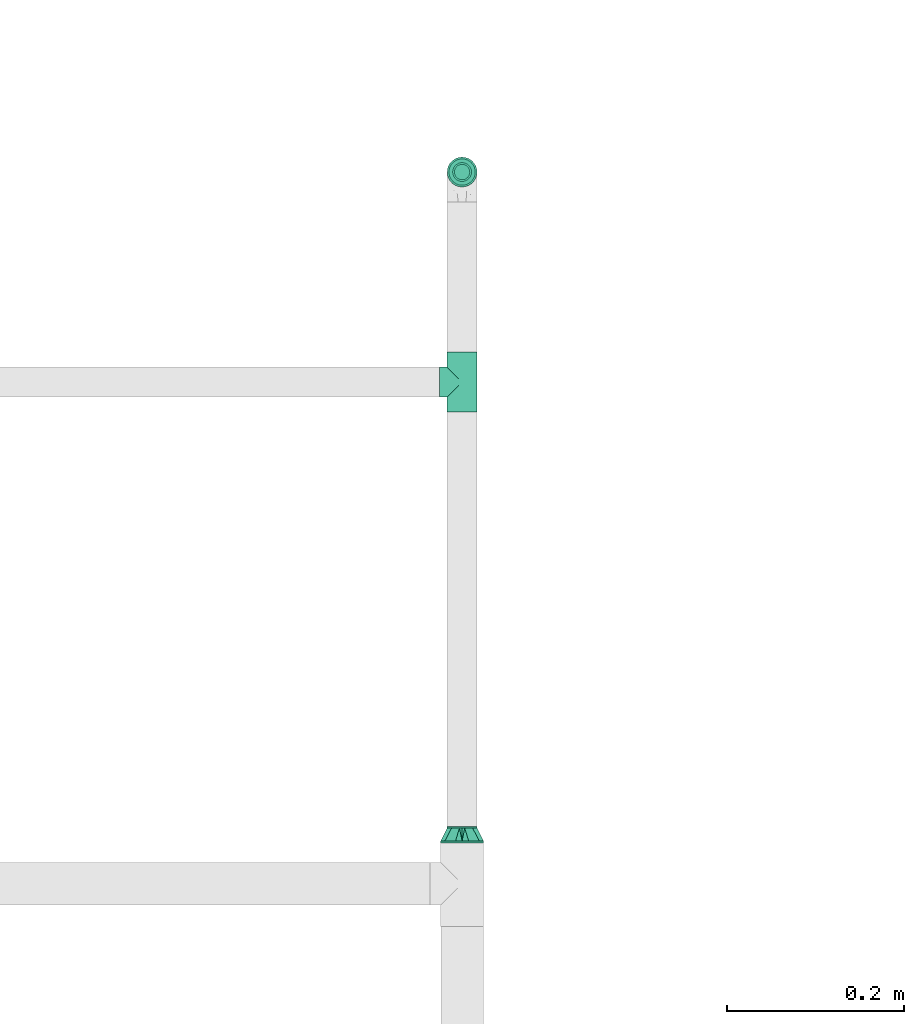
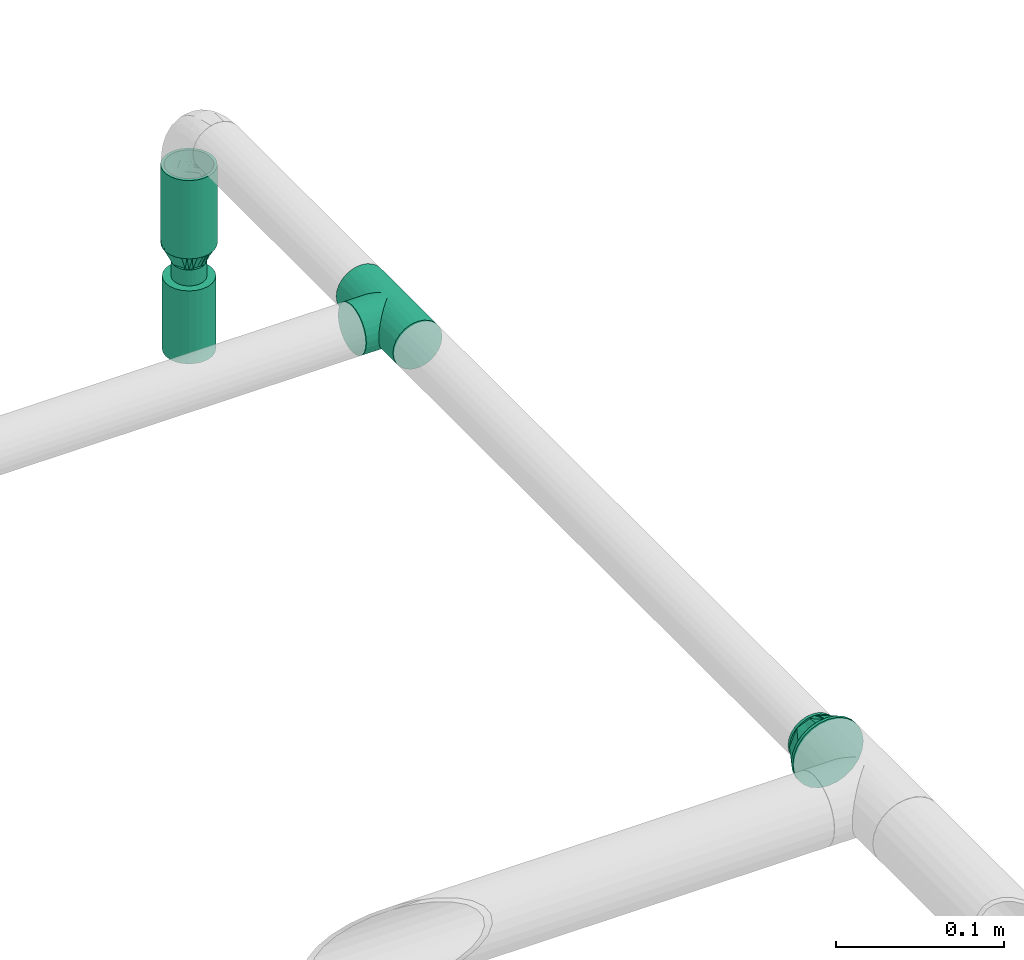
# One storey, part 36 of 43: 3 flow fittings, 2 flow segments, 1 flow terminal.
"""IFC2X3 building model written with IfcOpenShell, lengths in millimetres."""

from ifc_helpers import new_model, entity, si_unit, converted_unit, derived_unit, direction, frame, origin_with_axes, origin_2d_with_axis, place, context, subcontext, project, spatial, hollow_circle, extrude, open_shell, surface_model, source, transform, mapped, type_object, element, save


model = new_model("IFC2X3")

# Units and contexts
model_context = context("Model", 3, precision=0.01, world=frame((0.0, 4.29681676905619e-09, 0.0)), true_north=direction((4.01073788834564e-13, 1.0)))
plan_context = context("Plan", 3, precision=0.01, world=frame((0.0, 4.29681676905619e-09, 0.0)), true_north=direction((4.01073788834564e-13, 1.0)))
body_context = subcontext(model_context, "Body", "Model", "MODEL_VIEW")
ifc_project = project(units=[converted_unit("PLANEANGLEUNIT", "DEGREE", entity("IfcPositiveLengthMeasure", 0.0174532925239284), si_unit("PLANEANGLEUNIT", "RADIAN"), dimensions=[0, 0, 0, 0, 0, 0, 0]), si_unit("AREAUNIT", "SQUARE_METRE"), si_unit("LENGTHUNIT", "METRE", prefix="MILLI"), si_unit("MASSUNIT", "GRAM", prefix="KILO"), si_unit("POWERUNIT", "WATT"), si_unit("PRESSUREUNIT", "PASCAL"), si_unit("FORCEUNIT", "NEWTON", prefix="KILO"), si_unit("ELECTRICVOLTAGEUNIT", "VOLT"), si_unit("ELECTRICCURRENTUNIT", "AMPERE"), si_unit("THERMODYNAMICTEMPERATUREUNIT", "DEGREE_CELSIUS"), si_unit("TIMEUNIT", "SECOND"), si_unit("VOLUMEUNIT", "CUBIC_METRE"), derived_unit("LINEARVELOCITYUNIT", [(si_unit("LENGTHUNIT", "METRE"), 1), (si_unit("TIMEUNIT", "SECOND"), -1)]), derived_unit("VOLUMETRICFLOWRATEUNIT", [(si_unit("VOLUMEUNIT", "CUBIC_METRE"), 1), (si_unit("TIMEUNIT", "SECOND"), -1)]), derived_unit("THERMALTRANSMITTANCEUNIT", [(si_unit("POWERUNIT", "WATT"), 1), (si_unit("THERMODYNAMICTEMPERATUREUNIT", "KELVIN"), -1), (si_unit("AREAUNIT", "SQUARE_METRE"), -1)]), derived_unit("SOUNDPRESSUREUNIT", [(si_unit("PRESSUREUNIT", "PASCAL"), 1)])], contexts=[model_context, plan_context])

# Site, building, storey
site_placement = place(None, frame((0.0, -4.29681676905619e-09, 0.0), z_axis=(0.0, 0.0, 1.0), x_axis=(1.0, 0.0, 0.0)))
site = spatial("IfcSite", under=ifc_project, at=site_placement, CompositionType="ELEMENT")
building_placement = place(site_placement, frame((0.0, 4.29681676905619e-09, 0.0), z_axis=(0.0, 0.0, 1.0), x_axis=(1.0, 0.0, 0.0)))
building = spatial("IfcBuilding", under=site, at=building_placement, Name="mc-building", CompositionType="ELEMENT")
storey_placement = place(building_placement, frame((0.0, 0.0, 210900.0), z_axis=(0.0, 0.0, 1.0), x_axis=(1.0, 0.0, 0.0)))
storey = spatial("IfcBuildingStorey", under=building, at=storey_placement, Name="Nivå F", CompositionType="ELEMENT", Elevation=210900.0)

# Flow fittings
pipe_fitting_type_1 = type_object("IfcPipeFittingType", Name="magi_pipe_fe_tee_centric_90_NOR", PredefinedType="JUNCTION")
shared_shape_1 = source(origin_with_axes(), body_context, "Body", "SurfaceModel", [
    surface_model("IfcShellBasedSurfaceModel", [(-33.8, 8.45, -14.63583), (-33.8, 4.37404, -16.32415), (-33.8, 11.9501, -11.9501), (-33.8, -11.9501, -11.9501), (-33.8, -14.63583, -8.45), (-33.8, -8.45, -14.63583), (-33.8, 0.0, -16.9), (-33.8, -4.37404, -16.32415), (-33.8, -4.37404, 16.32415), (-33.8, 0.0, 16.9), (-33.8, -8.45, 14.63583), (-33.8, 16.32415, -4.37404), (-33.8, 14.63583, -8.45), (-33.8, -16.9, 0.0), (-33.8, -16.32415, -4.37404), (-33.8, 14.63583, 8.45), (-33.8, 16.32415, 4.37404), (-33.8, 8.45, 14.63583), (-33.8, 11.9501, 11.9501), (-33.8, 4.37404, 16.32415), (-33.8, -11.9501, 11.9501), (-33.8, -14.63583, 8.45), (-33.8, -16.32415, 4.37404), (-33.8, 16.9, 0.0), (33.8, 4.37404, -16.32415), (33.8, -16.9, 0.0), (33.8, 0.0, -16.9), (33.8, 14.63583, -8.45), (33.8, 8.45, -14.63583), (33.8, 16.32415, -4.37404), (33.8, 11.9501, -11.9501), (33.8, -16.32415, 4.37404), (33.8, -8.45, -14.63583), (33.8, -4.37404, -16.32415), (33.8, -11.9501, -11.9501), (33.8, -14.63583, -8.45), (33.8, -16.32415, -4.37404), (33.8, 16.32415, 4.37404), (33.8, 8.45, 14.63583), (33.8, 14.63583, 8.45), (33.8, 11.9501, 11.9501), (33.8, -8.45, 14.63583), (33.8, 4.37404, 16.32415), (33.8, -14.63583, 8.45), (33.8, -11.9501, 11.9501), (33.8, 0.0, 16.9), (33.8, -4.37404, 16.32415), (33.8, 16.9, 0.0), (16.28698, -16.28698, 4.51047), (16.9, -16.9, 0.0), (14.62704, -14.62704, 8.4652), (9.47213, -9.47213, 13.99602), (12.26343, -12.26343, 11.62834), (-16.9, -16.9, 0.0), (-16.28698, -16.28698, 4.51047), (-14.62704, -14.62704, 8.4652), (-12.26343, -12.26343, 11.62834), (-9.47213, -9.47213, 13.99602), (-6.42894, -6.42894, 15.62942), (6.42894, -6.42894, 15.62942), (3.24522, -3.24522, 16.58549), (0.0, 0.0, 16.9), (-3.24522, -3.24522, 16.58549), (3.24522, -3.24522, -16.58549), (0.0, 0.0, -16.9), (-3.24522, -3.24522, -16.58549), (-6.42894, -6.42894, -15.62942), (6.42894, -6.42894, -15.62942), (9.47213, -9.47213, -13.99602), (12.26343, -12.26343, -11.62834), (14.62704, -14.62704, -8.4652), (16.28698, -16.28698, -4.51047), (-9.47213, -9.47213, -13.99602), (-12.26343, -12.26343, -11.62834), (-16.28698, -16.28698, -4.51047), (-14.62704, -14.62704, -8.4652), (4.37404, -25.35, -16.32415), (-16.9, -25.35, 0.0), (0.0, -25.35, -16.9), (14.63583, -25.35, -8.45), (8.45, -25.35, -14.63583), (16.32415, -25.35, -4.37404), (11.9501, -25.35, -11.9501), (-11.9501, -25.35, -11.9501), (-8.45, -25.35, -14.63583), (-4.37404, -25.35, -16.32415), (-14.63583, -25.35, -8.45), (-16.32415, -25.35, -4.37404), (16.9, -25.35, 0.0), (8.45, -25.35, 14.63583), (16.32415, -25.35, 4.37404), (14.63583, -25.35, 8.45), (-8.45, -25.35, 14.63583), (11.9501, -25.35, 11.9501), (4.37404, -25.35, 16.32415), (-16.32415, -25.35, 4.37404), (-11.9501, -25.35, 11.9501), (-14.63583, -25.35, 8.45), (0.0, -25.35, 16.9), (-4.37404, -25.35, 16.32415)], [open_shell([[[0, 1, 2]], [[3, 4, 5]], [[6, 7, 5]], [[8, 9, 10]], [[1, 6, 11]], [[1, 11, 12]], [[2, 1, 12]], [[13, 11, 6]], [[14, 13, 4]], [[6, 5, 4]], [[6, 4, 13]], [[13, 15, 11]], [[15, 16, 11]], [[10, 15, 13]], [[15, 10, 17]], [[18, 15, 17]], [[19, 17, 9]], [[20, 10, 21]], [[22, 21, 10]], [[10, 13, 22]], [[10, 9, 17]], [[23, 11, 16]], [[24, 25, 26]], [[27, 24, 28]], [[27, 29, 24]], [[27, 28, 30]], [[31, 25, 24]], [[26, 32, 33]], [[26, 34, 32]], [[35, 25, 36]], [[35, 34, 26]], [[25, 35, 26]], [[24, 29, 31]], [[29, 37, 38]], [[38, 37, 39]], [[38, 31, 29]], [[38, 39, 40]], [[41, 38, 42]], [[43, 41, 44]], [[41, 43, 31]], [[41, 45, 46]], [[41, 31, 38]], [[42, 45, 41]], [[29, 47, 37]], [[31, 43, 48]], [[25, 31, 49]], [[49, 31, 48]], [[43, 50, 48]], [[44, 41, 51]], [[50, 43, 52]], [[51, 52, 44]], [[52, 43, 44]], [[53, 54, 22]], [[53, 22, 13]], [[22, 54, 21]], [[54, 55, 21]], [[56, 57, 20]], [[20, 21, 56]], [[20, 57, 10]], [[56, 21, 55]], [[10, 57, 58]], [[51, 41, 59]], [[60, 45, 61]], [[59, 46, 60]], [[46, 59, 41]], [[60, 46, 45]], [[61, 45, 42]], [[39, 37, 16]], [[18, 38, 40]], [[15, 40, 39]], [[42, 38, 17]], [[23, 37, 47]], [[62, 61, 9]], [[62, 8, 58]], [[8, 62, 9]], [[58, 8, 10]], [[61, 19, 9]], [[42, 19, 61]], [[17, 19, 42]], [[17, 38, 18]], [[15, 18, 40]], [[16, 15, 39]], [[37, 23, 16]], [[12, 27, 30]], [[23, 47, 29]], [[30, 28, 0]], [[27, 11, 29]], [[26, 33, 63]], [[26, 64, 24]], [[64, 26, 63]], [[28, 24, 1]], [[64, 1, 24]], [[2, 30, 0]], [[11, 27, 12]], [[12, 30, 2]], [[11, 23, 29]], [[65, 66, 7]], [[6, 1, 64]], [[6, 65, 7]], [[66, 5, 7]], [[1, 0, 28]], [[6, 64, 65]], [[63, 33, 67]], [[32, 34, 68]], [[69, 68, 34]], [[35, 70, 69]], [[69, 34, 35]], [[32, 68, 67]], [[36, 25, 49]], [[36, 71, 35]], [[71, 36, 49]], [[35, 71, 70]], [[72, 5, 66]], [[72, 3, 5]], [[3, 72, 73]], [[3, 73, 4]], [[74, 53, 14]], [[75, 74, 4]], [[74, 14, 4]], [[14, 53, 13]], [[75, 4, 73]], [[32, 67, 33]], [[76, 77, 78]], [[79, 76, 80]], [[79, 81, 76]], [[79, 80, 82]], [[77, 76, 81]], [[78, 83, 84]], [[84, 85, 78]], [[86, 77, 87]], [[83, 78, 86]], [[77, 86, 78]], [[81, 88, 77]], [[89, 88, 90]], [[89, 90, 91]], [[92, 77, 89]], [[89, 91, 93]], [[92, 89, 94]], [[95, 96, 97]], [[96, 95, 92]], [[92, 98, 99]], [[95, 77, 92]], [[94, 98, 92]], [[89, 77, 88]], [[77, 95, 53]], [[54, 53, 95]], [[97, 96, 56]], [[96, 92, 57]], [[95, 97, 54]], [[58, 92, 99]], [[55, 54, 97]], [[56, 55, 97]], [[58, 57, 92]], [[98, 61, 62]], [[58, 99, 62]], [[56, 96, 57]], [[62, 99, 98]], [[94, 60, 98]], [[89, 59, 94]], [[91, 90, 48]], [[52, 93, 91]], [[93, 51, 89]], [[49, 90, 88]], [[59, 60, 94]], [[51, 59, 89]], [[49, 48, 90]], [[50, 52, 91]], [[48, 50, 91]], [[51, 93, 52]], [[98, 60, 61]], [[88, 81, 49]], [[71, 49, 81]], [[79, 82, 69]], [[82, 80, 68]], [[81, 79, 71]], [[67, 80, 76]], [[70, 71, 79]], [[69, 70, 79]], [[67, 68, 80]], [[78, 64, 63]], [[67, 76, 63]], [[69, 82, 68]], [[63, 76, 78]], [[85, 65, 78]], [[84, 66, 85]], [[86, 87, 74]], [[86, 73, 83]], [[72, 84, 83]], [[53, 87, 77]], [[66, 65, 85]], [[72, 66, 84]], [[53, 74, 87]], [[75, 73, 86]], [[74, 75, 86]], [[72, 83, 73]], [[78, 65, 64]]])]),
])
flow_fitting_1_placement = place(storey_placement, frame((606986.48955, 698193.36932, 2660.0), z_axis=(0.0, 0.0, -1.0), x_axis=(0.0, 1.0, 0.0)))
element("IfcFlowFitting", 1, at=flow_fitting_1_placement, inside=storey, type_object=pipe_fitting_type_1, Name="magi_pipe_fe_tee_centric_90_NOR", context=body_context, shape_type="MappedRepresentation", body=[
    mapped(shared_shape_1, transform((0.0, 0.0, 0.0), scale=1.0)),
])
pipe_fitting_type_2 = type_object("IfcPipeFittingType", Name="magi_pipe_fe_reducer_centric_short_NOR", PredefinedType="TRANSITION")
shared_shape_2 = source(origin_with_axes(), body_context, "Body", "SurfaceModel", [
    surface_model("IfcShellBasedSurfaceModel", [(-2.0, 0.0, 24.2), (-2.0, 6.26342, 23.37541), (-2.0, 12.1, 20.95781), (-2.0, 17.11198, 17.11198), (-2.0, 24.2, 0.0), (-2.0, 20.95781, 12.1), (-2.0, -23.37541, 6.26342), (-2.0, -17.11198, -17.11198), (-2.0, -6.26342, 23.37541), (-2.0, -17.11198, 17.11198), (-2.0, -12.1, 20.95781), (-2.0, -20.95781, 12.1), (-2.0, -24.2, 0.0), (-2.0, 23.37541, 6.26342), (-2.0, 23.37541, -6.26342), (-2.0, 6.26342, -23.37541), (-2.0, 17.11198, -17.11198), (-2.0, 20.95781, -12.1), (-2.0, 12.1, -20.95781), (-2.0, -23.37541, -6.26342), (-2.0, -20.95781, -12.1), (-2.0, -6.26342, -23.37541), (-2.0, -12.1, -20.95781), (-2.0, 0.0, -24.2), (0.0, 24.2, 0.0), (0.0, 6.26342, -23.37541), (0.0, 12.1, -20.95781), (0.0, 23.37541, -6.26342), (0.0, 17.11198, -17.11198), (0.0, 20.95781, -12.1), (0.0, -24.2, 0.0), (0.0, -12.1, -20.95781), (0.0, -6.26342, -23.37541), (0.0, 0.0, -24.2), (0.0, -17.11198, -17.11198), (0.0, -23.37541, -6.26342), (0.0, -20.95781, -12.1), (0.0, 20.95781, 12.1), (0.0, 17.11198, 17.11198), (0.0, 12.1, 20.95781), (0.0, 6.26342, 23.37541), (0.0, 0.0, 24.2), (0.0, -23.37541, 6.26342), (0.0, -17.11198, 17.11198), (0.0, -20.95781, 12.1), (0.0, -6.26342, 23.37541), (0.0, -12.1, 20.95781), (0.0, 23.37541, 6.26342), (0.0, 7.47821, 23.01557), (0.0, 19.57821, 14.2244), (0.0, -7.47821, 23.01557), (0.0, 7.47821, -23.01557), (0.0, 19.57821, -14.2244), (0.0, -7.47821, -23.01557), (0.0, -19.57821, -14.2244), (0.0, -19.57821, 14.2244), (16.6, 4.37404, -16.32415), (16.6, 8.45, -14.63583), (16.6, 11.9501, -11.9501), (16.6, 0.0, -16.9), (16.6, 16.32415, -4.37404), (16.6, 16.32415, 4.37404), (16.6, 14.63583, -8.45), (16.6, -8.45, 14.63583), (16.6, -8.45, -14.63583), (16.6, -4.37404, -16.32415), (16.6, -11.9501, -11.9501), (16.6, -16.32415, -4.37404), (16.6, -14.63583, -8.45), (16.6, -16.32415, 4.37404), (16.6, 16.9, 0.0), (16.6, 14.63583, 8.45), (16.6, 11.9501, 11.9501), (16.6, 4.37404, 16.32415), (16.6, 8.45, 14.63583), (16.6, 0.0, 16.9), (16.6, -14.63583, 8.45), (16.6, -16.9, 0.0), (16.6, -11.9501, 11.9501), (16.6, -4.37404, 16.32415), (14.6, 11.9501, 11.9501), (14.6, 0.0, 16.9), (14.6, 4.37404, 16.32415), (14.6, 8.45, 14.63583), (14.6, 14.63583, 8.45), (14.6, 16.32415, 4.37404), (14.6, -16.32415, 4.37404), (14.6, -8.45, -14.63583), (14.6, -8.45, 14.63583), (14.6, -14.63583, 8.45), (14.6, -11.9501, 11.9501), (14.6, -4.37404, 16.32415), (14.6, -16.32415, -4.37404), (14.6, -16.9, 0.0), (14.6, 16.32415, -4.37404), (14.6, 11.9501, -11.9501), (14.6, 14.63583, -8.45), (14.6, 8.45, -14.63583), (14.6, 4.37404, -16.32415), (14.6, 0.0, -16.9), (14.6, -11.9501, -11.9501), (14.6, -14.63583, -8.45), (14.6, -4.37404, -16.32415), (14.6, 16.9, 0.0), (14.6, -13.18758, -8.96258), (14.6, 14.42505, -5.97505), (0.0, 21.8891, -7.1122), (0.0, 13.52821, -18.61999), (0.0, 16.55321, -16.42219), (14.6, -14.42505, -5.97505), (0.0, -21.8891, -7.1122), (0.0, -20.73366, -10.6683), (14.6, 5.97505, -14.42505), (0.0, 0.0, -23.01557), (14.6, -2.98753, -15.66253), (14.6, 2.98753, -15.66253), (14.6, 8.96258, -13.18758), (14.6, 15.66253, -2.98753), (14.6, -15.66253, -2.98753), (0.0, -13.52821, -18.61999), (14.6, -5.97505, -14.42505), (14.6, -8.96258, -13.18758), (14.6, 13.18758, -8.96258), (14.6, 13.18758, 8.96258), (14.6, -14.42505, 5.97505), (0.0, -21.8891, 7.1122), (0.0, -13.52821, 18.61999), (0.0, -16.55321, 16.42219), (14.6, 14.42505, 5.97505), (0.0, 21.8891, 7.1122), (0.0, 20.73366, 10.6683), (14.6, -5.97505, 14.42505), (0.0, 0.0, 23.01557), (14.6, 2.98753, 15.66253), (14.6, -2.98753, 15.66253), (14.6, -8.96258, 13.18758), (14.6, -15.66253, 2.98753), (14.6, 15.66253, 2.98753), (0.0, 13.52821, 18.61999), (14.6, 5.97505, 14.42505), (14.6, 8.96258, 13.18758), (14.6, -13.18758, 8.96258)], [open_shell([[[0, 1, 2]], [[0, 2, 3]], [[4, 3, 5]], [[6, 0, 7]], [[0, 3, 7]], [[8, 9, 10]], [[8, 0, 9]], [[9, 6, 11]], [[0, 6, 9]], [[6, 7, 12]], [[4, 5, 13]], [[3, 14, 15]], [[16, 14, 17]], [[18, 15, 14]], [[18, 14, 16]], [[15, 7, 3]], [[19, 7, 20]], [[12, 7, 19]], [[15, 21, 22]], [[22, 7, 15]], [[21, 15, 23]], [[14, 3, 4]], [[24, 25, 26]], [[27, 26, 28]], [[27, 24, 26]], [[27, 28, 29]], [[25, 30, 31]], [[25, 32, 33]], [[25, 31, 32]], [[34, 35, 36]], [[34, 31, 30]], [[34, 30, 35]], [[25, 24, 37]], [[37, 38, 25]], [[25, 38, 30]], [[39, 40, 41]], [[39, 41, 38]], [[30, 38, 41]], [[42, 43, 44]], [[45, 42, 30]], [[43, 45, 46]], [[45, 43, 42]], [[30, 41, 45]], [[24, 47, 37]], [[19, 35, 12]], [[20, 36, 19]], [[31, 7, 22]], [[20, 7, 34]], [[32, 22, 21]], [[19, 36, 35]], [[35, 30, 12]], [[32, 31, 22]], [[34, 7, 31]], [[34, 36, 20]], [[33, 32, 21]], [[21, 23, 33]], [[15, 25, 23]], [[18, 26, 15]], [[29, 16, 17]], [[18, 16, 28]], [[27, 17, 14]], [[18, 28, 26]], [[26, 25, 15]], [[24, 27, 14]], [[29, 17, 27]], [[29, 28, 16]], [[4, 24, 14]], [[23, 25, 33]], [[13, 47, 4]], [[5, 37, 13]], [[39, 3, 2]], [[5, 3, 38]], [[40, 2, 1]], [[13, 37, 47]], [[47, 24, 4]], [[40, 39, 2]], [[38, 3, 39]], [[38, 37, 5]], [[41, 40, 1]], [[1, 0, 41]], [[8, 45, 0]], [[10, 46, 8]], [[44, 9, 11]], [[10, 9, 43]], [[42, 11, 6]], [[10, 43, 46]], [[46, 45, 8]], [[30, 42, 6]], [[44, 11, 42]], [[44, 43, 9]], [[12, 30, 6]], [[0, 45, 41]], [[48, 49, 50]], [[49, 51, 30]], [[52, 51, 49]], [[30, 53, 54]], [[30, 51, 53]], [[49, 24, 52]], [[50, 30, 55]], [[30, 50, 49]], [[56, 57, 58]], [[59, 56, 58]], [[58, 60, 61]], [[60, 58, 62]], [[58, 63, 64]], [[59, 64, 65]], [[59, 58, 64]], [[66, 67, 68]], [[67, 66, 64]], [[64, 69, 67]], [[61, 60, 70]], [[61, 71, 72]], [[61, 72, 73]], [[61, 73, 63]], [[73, 72, 74]], [[63, 73, 75]], [[69, 63, 76]], [[77, 67, 69]], [[76, 63, 78]], [[63, 69, 64]], [[75, 79, 63]], [[58, 61, 63]], [[80, 81, 82]], [[80, 82, 83]], [[80, 84, 85]], [[80, 85, 81]], [[86, 81, 87]], [[88, 89, 90]], [[89, 88, 91]], [[81, 89, 91]], [[81, 86, 89]], [[86, 92, 93]], [[87, 81, 85]], [[85, 94, 95]], [[95, 94, 96]], [[95, 97, 98]], [[87, 85, 95]], [[98, 99, 95]], [[92, 100, 101]], [[100, 92, 87]], [[87, 99, 102]], [[92, 86, 87]], [[95, 99, 87]], [[94, 85, 103]], [[92, 67, 93]], [[101, 68, 92]], [[64, 100, 87]], [[101, 100, 66]], [[65, 87, 102]], [[92, 68, 67]], [[67, 77, 93]], [[65, 64, 87]], [[66, 100, 64]], [[66, 68, 101]], [[59, 65, 102]], [[102, 99, 59]], [[98, 56, 99]], [[97, 57, 98]], [[62, 95, 96]], [[97, 95, 58]], [[60, 96, 94]], [[97, 58, 57]], [[57, 56, 98]], [[70, 60, 94]], [[62, 96, 60]], [[62, 58, 95]], [[103, 70, 94]], [[99, 56, 59]], [[85, 61, 103]], [[84, 71, 85]], [[74, 80, 83]], [[84, 80, 72]], [[73, 83, 82]], [[85, 71, 61]], [[61, 70, 103]], [[73, 74, 83]], [[72, 80, 74]], [[72, 71, 84]], [[75, 73, 82]], [[82, 81, 75]], [[91, 79, 81]], [[88, 63, 91]], [[76, 90, 89]], [[88, 90, 78]], [[69, 89, 86]], [[88, 78, 63]], [[63, 79, 91]], [[77, 69, 86]], [[76, 89, 69]], [[76, 78, 90]], [[93, 77, 86]], [[81, 79, 75]], [[81, 90, 103]], [[103, 80, 81]], [[90, 100, 103]], [[99, 103, 100]], [[95, 103, 99]], [[100, 90, 93]], [[54, 100, 104]], [[105, 52, 106]], [[95, 107, 108]], [[109, 110, 111]], [[51, 107, 112]], [[113, 114, 53]], [[113, 115, 99]], [[116, 112, 107]], [[24, 117, 106]], [[51, 115, 113]], [[30, 118, 93]], [[100, 54, 119]], [[119, 120, 121]], [[30, 110, 118]], [[117, 24, 103]], [[52, 105, 122]], [[114, 120, 53]], [[114, 113, 99]], [[51, 112, 115]], [[95, 108, 52]], [[109, 118, 110]], [[54, 104, 111]], [[104, 109, 111]], [[95, 52, 122]], [[120, 119, 53]], [[121, 100, 119]], [[117, 105, 106]], [[107, 95, 116]], [[49, 80, 123]], [[124, 55, 125]], [[90, 126, 127]], [[128, 129, 130]], [[50, 126, 131]], [[132, 133, 48]], [[132, 134, 81]], [[135, 131, 126]], [[30, 136, 125]], [[50, 134, 132]], [[24, 137, 103]], [[80, 49, 138]], [[138, 139, 140]], [[24, 129, 137]], [[136, 30, 93]], [[55, 124, 141]], [[133, 139, 48]], [[133, 132, 81]], [[50, 131, 134]], [[90, 127, 55]], [[128, 137, 129]], [[49, 123, 130]], [[123, 128, 130]], [[90, 55, 141]], [[139, 138, 48]], [[140, 80, 138]], [[136, 124, 125]], [[126, 90, 135]]])]),
])
flow_fitting_2_placement = place(storey_placement, frame((606986.48955, 697673.66176, 2660.0), z_axis=(0.0, 0.0, 1.0), x_axis=(0.0, 1.0, 0.0)))
element("IfcFlowFitting", 2, at=flow_fitting_2_placement, inside=storey, type_object=pipe_fitting_type_2, Name="magi_pipe_fe_reducer_centric_short_NOR", context=body_context, shape_type="MappedRepresentation", body=[
    mapped(shared_shape_2, transform((0.0, 0.0, 0.0), scale=1.0)),
])
shared_shape_3 = source(origin_with_axes(), body_context, "Body", "SurfaceModel", [
    surface_model("IfcShellBasedSurfaceModel", [(14.4, 4.37404, -16.32415), (14.4, 8.45, -14.63583), (14.4, 11.9501, -11.9501), (14.4, -8.45, -14.63583), (14.4, 16.32415, -4.37404), (14.4, 16.32415, 4.37404), (14.4, 14.63583, -8.45), (14.4, 0.0, -16.9), (14.4, -4.37404, -16.32415), (14.4, -11.9501, -11.9501), (14.4, -16.32415, -4.37404), (14.4, -14.63583, -8.45), (14.4, -16.32415, 4.37404), (14.4, 16.9, 0.0), (14.4, 14.63583, 8.45), (14.4, 11.9501, 11.9501), (14.4, 4.37404, 16.32415), (14.4, 8.45, 14.63583), (14.4, 0.0, 16.9), (14.4, -14.63583, 8.45), (14.4, -16.9, 0.0), (14.4, -8.45, 14.63583), (14.4, -11.9501, 11.9501), (14.4, -4.37404, 16.32415), (12.4, 4.37404, 16.32415), (12.4, -14.63583, 8.45), (12.4, 0.0, 16.9), (12.4, 16.32415, 4.37404), (12.4, 8.45, 14.63583), (12.4, 11.9501, 11.9501), (12.4, 14.63583, 8.45), (12.4, -8.45, 14.63583), (12.4, -11.9501, 11.9501), (12.4, -4.37404, 16.32415), (12.4, -16.32415, 4.37404), (12.4, -16.32415, -4.37404), (12.4, -16.9, 0.0), (12.4, -8.45, -14.63583), (12.4, 16.32415, -4.37404), (12.4, 11.9501, -11.9501), (12.4, 14.63583, -8.45), (12.4, 8.45, -14.63583), (12.4, 4.37404, -16.32415), (12.4, 0.0, -16.9), (12.4, -11.9501, -11.9501), (12.4, -14.63583, -8.45), (12.4, -4.37404, -16.32415), (12.4, 16.9, 0.0), (-2.0, 10.33541, 2.76936), (-2.0, 0.0, 10.7), (-2.0, 2.76936, 10.33541), (-2.0, 7.56604, 7.56604), (-2.0, 5.35, 9.26647), (-2.0, 9.26647, 5.35), (-2.0, -9.26647, 5.35), (-2.0, -2.76936, 10.33541), (-2.0, -7.56604, 7.56604), (-2.0, -5.35, 9.26647), (-2.0, -10.33541, 2.76936), (-2.0, -10.33541, -2.76936), (-2.0, -10.7, 0.0), (-2.0, 10.33541, -2.76936), (-2.0, 7.56604, -7.56604), (-2.0, 9.26647, -5.35), (-2.0, 5.35, -9.26647), (-2.0, -5.35, -9.26647), (-2.0, 2.76936, -10.33541), (-2.0, -7.56604, -7.56604), (-2.0, -9.26647, -5.35), (-2.0, 0.0, -10.7), (-2.0, -2.76936, -10.33541), (-2.0, 10.7, 0.0), (0.0, 5.35, -9.26647), (0.0, 0.0, -10.7), (0.0, 2.76936, -10.33541), (0.0, 10.33541, -2.76936), (0.0, 7.56604, -7.56604), (0.0, -5.35, -9.26647), (0.0, 9.26647, -5.35), (0.0, -9.26647, 5.35), (0.0, -2.76936, -10.33541), (0.0, -7.56604, -7.56604), (0.0, -10.33541, -2.76936), (0.0, -9.26647, -5.35), (0.0, 10.33541, 2.76936), (0.0, 10.7, 0.0), (0.0, 9.26647, 5.35), (0.0, 7.56604, 7.56604), (0.0, 2.76936, 10.33541), (0.0, 0.0, 10.7), (0.0, 5.35, 9.26647), (0.0, -10.33541, 2.76936), (0.0, -10.7, 0.0), (0.0, -7.56604, 7.56604), (0.0, -2.76936, 10.33541), (0.0, -5.35, 9.26647), (0.0, -9.3625, -2.31662), (12.4, -14.42505, -5.97505), (12.4, -15.66253, -2.98753), (0.0, 6.6875, -6.94985), (12.4, 8.96258, -13.18758), (0.0, -6.6875, -6.94985), (12.4, -8.96258, -13.18758), (0.0, 9.3625, -2.31662), (12.4, 15.66253, -2.98753), (12.4, 14.42505, -5.97505), (12.4, -5.97505, -14.42505), (12.4, 5.97505, -14.42505), (0.0, 2.675, -9.26647), (12.4, 13.18758, -8.96258), (0.0, -2.675, -9.26647), (12.4, -13.18758, -8.96258), (0.0, -8.025, -4.63324), (12.4, 2.98753, -15.66253), (0.0, 0.0, -9.26647), (12.4, -2.98753, -15.66253), (0.0, 8.025, -4.63324), (0.0, 9.3625, 2.31662), (12.4, 14.42505, 5.97505), (12.4, 15.66253, 2.98753), (0.0, -6.6875, 6.94985), (12.4, -8.96258, 13.18758), (0.0, 6.6875, 6.94985), (12.4, 8.96258, 13.18758), (0.0, -9.3625, 2.31662), (12.4, -15.66253, 2.98753), (12.4, -14.42505, 5.97505), (12.4, 5.97505, 14.42505), (12.4, -5.97505, 14.42505), (0.0, -2.675, 9.26647), (12.4, -13.18758, 8.96258), (0.0, 2.675, 9.26647), (12.4, 13.18758, 8.96258), (0.0, 8.025, 4.63324), (12.4, -2.98753, 15.66253), (0.0, 0.0, 9.26647), (12.4, 2.98753, 15.66253), (0.0, -8.025, 4.63324)], [open_shell([[[0, 1, 2]], [[3, 0, 2]], [[2, 4, 5]], [[4, 2, 6]], [[2, 5, 3]], [[7, 3, 8]], [[7, 0, 3]], [[9, 10, 11]], [[10, 9, 3]], [[3, 12, 10]], [[5, 4, 13]], [[5, 14, 15]], [[5, 15, 16]], [[16, 12, 3]], [[16, 15, 17]], [[12, 16, 18]], [[18, 19, 12]], [[20, 10, 12]], [[19, 21, 22]], [[19, 18, 21]], [[21, 18, 23]], [[3, 5, 16]], [[24, 25, 26]], [[27, 24, 28]], [[29, 30, 27]], [[29, 27, 28]], [[25, 24, 27]], [[31, 25, 32]], [[31, 33, 26]], [[26, 25, 31]], [[34, 25, 27]], [[34, 35, 36]], [[34, 27, 37]], [[27, 38, 39]], [[39, 38, 40]], [[39, 41, 42]], [[37, 27, 39]], [[42, 43, 39]], [[35, 44, 45]], [[44, 35, 37]], [[37, 43, 46]], [[35, 34, 37]], [[39, 43, 37]], [[38, 27, 47]], [[35, 10, 36]], [[45, 11, 35]], [[3, 44, 37]], [[45, 44, 9]], [[8, 37, 46]], [[35, 11, 10]], [[10, 20, 36]], [[8, 3, 37]], [[9, 44, 3]], [[9, 11, 45]], [[7, 8, 46]], [[46, 43, 7]], [[42, 0, 43]], [[41, 1, 42]], [[6, 39, 40]], [[41, 39, 2]], [[4, 40, 38]], [[41, 2, 1]], [[1, 0, 42]], [[13, 4, 38]], [[6, 40, 4]], [[6, 2, 39]], [[47, 13, 38]], [[43, 0, 7]], [[27, 5, 47]], [[30, 14, 27]], [[17, 29, 28]], [[30, 29, 15]], [[16, 28, 24]], [[27, 14, 5]], [[5, 13, 47]], [[16, 17, 28]], [[15, 29, 17]], [[15, 14, 30]], [[18, 16, 24]], [[24, 26, 18]], [[33, 23, 26]], [[31, 21, 33]], [[19, 32, 25]], [[31, 32, 22]], [[12, 25, 34]], [[31, 22, 21]], [[21, 23, 33]], [[20, 12, 34]], [[19, 25, 12]], [[19, 22, 32]], [[36, 20, 34]], [[26, 23, 18]], [[48, 49, 50]], [[51, 50, 52]], [[51, 53, 48]], [[51, 48, 50]], [[49, 48, 54]], [[55, 56, 57]], [[56, 55, 54]], [[58, 59, 60]], [[54, 55, 49]], [[58, 54, 59]], [[54, 48, 61]], [[59, 54, 61]], [[62, 61, 63]], [[59, 62, 64]], [[61, 62, 59]], [[65, 64, 66]], [[59, 67, 68]], [[67, 59, 65]], [[65, 69, 70]], [[65, 59, 64]], [[66, 69, 65]], [[61, 48, 71]], [[72, 73, 74]], [[75, 72, 76]], [[77, 72, 75]], [[75, 76, 78]], [[79, 77, 75]], [[73, 77, 80]], [[73, 72, 77]], [[81, 82, 83]], [[82, 81, 77]], [[77, 79, 82]], [[84, 75, 85]], [[84, 86, 87]], [[75, 87, 79]], [[88, 89, 87]], [[88, 87, 90]], [[79, 87, 89]], [[82, 91, 92]], [[79, 91, 82]], [[93, 94, 95]], [[94, 93, 79]], [[89, 94, 79]], [[75, 84, 87]], [[59, 82, 60]], [[68, 83, 59]], [[77, 67, 65]], [[68, 67, 81]], [[80, 65, 70]], [[59, 83, 82]], [[82, 92, 60]], [[80, 77, 65]], [[81, 67, 77]], [[81, 83, 68]], [[73, 80, 70]], [[70, 69, 73]], [[66, 74, 69]], [[64, 72, 66]], [[78, 62, 63]], [[64, 62, 76]], [[75, 63, 61]], [[64, 76, 72]], [[72, 74, 66]], [[85, 75, 61]], [[78, 63, 75]], [[78, 76, 62]], [[71, 85, 61]], [[69, 74, 73]], [[48, 84, 71]], [[53, 86, 48]], [[90, 51, 52]], [[53, 51, 87]], [[88, 52, 50]], [[48, 86, 84]], [[84, 85, 71]], [[88, 90, 52]], [[87, 51, 90]], [[87, 86, 53]], [[89, 88, 50]], [[50, 49, 89]], [[55, 94, 49]], [[57, 95, 55]], [[79, 56, 54]], [[57, 56, 93]], [[91, 54, 58]], [[57, 93, 95]], [[95, 94, 55]], [[92, 91, 58]], [[79, 54, 91]], [[79, 93, 56]], [[60, 92, 58]], [[49, 94, 89]], [[29, 26, 39]], [[39, 47, 29]], [[36, 26, 32]], [[36, 44, 43]], [[43, 39, 36]], [[36, 39, 26]], [[92, 95, 77]], [[85, 95, 90]], [[85, 72, 77]], [[85, 77, 95]], [[96, 97, 98]], [[92, 96, 98]], [[99, 100, 72]], [[98, 36, 92]], [[44, 101, 102]], [[101, 77, 102]], [[103, 104, 105]], [[85, 47, 104]], [[77, 106, 102]], [[107, 108, 72]], [[109, 39, 99]], [[106, 77, 110]], [[101, 111, 112]], [[113, 114, 108]], [[100, 99, 39]], [[110, 115, 106]], [[99, 116, 109]], [[100, 107, 72]], [[96, 112, 97]], [[105, 116, 103]], [[85, 104, 103]], [[108, 107, 113]], [[113, 43, 114]], [[116, 105, 109]], [[114, 115, 110]], [[43, 115, 114]], [[111, 101, 44]], [[111, 97, 112]], [[117, 118, 119]], [[85, 117, 119]], [[120, 121, 95]], [[119, 47, 85]], [[29, 122, 123]], [[122, 90, 123]], [[124, 125, 126]], [[92, 36, 125]], [[90, 127, 123]], [[128, 129, 95]], [[130, 32, 120]], [[127, 90, 131]], [[122, 132, 133]], [[134, 135, 129]], [[121, 120, 32]], [[131, 136, 127]], [[120, 137, 130]], [[121, 128, 95]], [[117, 133, 118]], [[126, 137, 124]], [[92, 125, 124]], [[129, 128, 134]], [[134, 26, 135]], [[137, 126, 130]], [[135, 136, 131]], [[26, 136, 135]], [[132, 122, 29]], [[132, 118, 133]]])]),
])
flow_fitting_3_placement = place(storey_placement, frame((606986.48955, 698431.17925, 2556.95199999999), z_axis=(0.0, 1.0, 0.0), x_axis=(0.0, 0.0, 1.0)))
element("IfcFlowFitting", 3, at=flow_fitting_3_placement, inside=storey, type_object=pipe_fitting_type_2, Name="magi_pipe_fe_reducer_centric_short_NOR", context=body_context, shape_type="MappedRepresentation", body=[
    mapped(shared_shape_3, transform((0.0, 0.0, 0.0), scale=1.0)),
])

# Flow segments
pipe_segment_type = type_object("IfcPipeSegmentType", Name="Stålrør normaltykke", PredefinedType="RIGIDSEGMENT")
shared_shape_4 = source(origin_with_axes(), body_context, "Body", "SweptSolid", [
    extrude(hollow_circle(Radius=16.9, WallThickness=2.0, at=origin_2d_with_axis()), frame((0.0, 0.0, 0.0), z_axis=(1.0, 0.0, 0.0), x_axis=(0.0, 1.0, 0.0)), (0.0, 0.0, 1.0), 56.8),
])
flow_segment_1_placement = place(storey_placement, frame((606986.48955, 698431.17925, 2626.20000000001), z_axis=(-1.0, 0.0, 0.0), x_axis=(0.0, 0.0, -1.0)))
element("IfcFlowSegment", 4, at=flow_segment_1_placement, inside=storey, type_object=pipe_segment_type, Name="Stålrør normaltykke", context=body_context, shape_type="MappedRepresentation", body=[
    mapped(shared_shape_4, transform((0.0, 0.0, 0.0), scale=1.0, scale2=1.0, scale3=1.0, uniform=False)),
])
shared_shape_5 = source(origin_with_axes(), body_context, "Body", "SweptSolid", [
    extrude(hollow_circle(Radius=10.7, WallThickness=2.0, at=origin_2d_with_axis()), frame((0.0, 0.0, 0.0), z_axis=(1.0, 0.0, 0.0), x_axis=(0.0, 1.0, 0.0)), (0.0, 0.0, 1.0), 14.5),
])
flow_segment_2_placement = place(storey_placement, frame((606986.48955, 698431.17925, 2542.45199999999), z_axis=(0.0, 1.0, 0.0), x_axis=(0.0, 0.0, 1.0)))
element("IfcFlowSegment", 5, at=flow_segment_2_placement, inside=storey, type_object=pipe_segment_type, Name="Stålrør normaltykke", context=body_context, shape_type="MappedRepresentation", body=[
    mapped(shared_shape_5, transform((0.0, 0.0, 0.0), scale=1.0)),
])

# Flow terminal
fire_suppression_terminal_type = type_object("IfcFireSuppressionTerminalType", Name="SP-15-K80-68DGR-STD-HIMLING", PredefinedType="NOTDEFINED")
shared_shape_6 = source(origin_with_axes(), body_context, "Body", "SurfaceModel", [
    surface_model("IfcShellBasedSurfaceModel", [(4.1411, -15.45481, 53.0), (8.0, -13.85641, 53.0), (11.31371, -11.31371, 53.0), (-8.0, -13.85641, 53.0), (15.45481, -4.1411, 53.0), (16.0, 0.0, 53.0), (13.85641, -8.0, 53.0), (0.0, -16.0, 53.0), (-4.1411, -15.45481, 53.0), (-13.85641, -8.0, 53.0), (-11.31371, -11.31371, 53.0), (-15.45481, -4.1411, 53.0), (15.45481, 4.1411, 53.0), (13.85641, 8.0, 53.0), (11.31371, 11.31371, 53.0), (-4.1411, 15.45481, 53.0), (8.0, 13.85641, 53.0), (4.1411, 15.45481, 53.0), (0.0, 16.0, 53.0), (-13.85641, 8.0, 53.0), (-15.45481, 4.1411, 53.0), (-16.0, 0.0, 53.0), (-11.31371, 11.31371, 53.0), (-8.0, 13.85641, 53.0), (0.0, 16.0, 0.0), (4.1411, 15.45481, 0.0), (8.0, 13.85641, 0.0), (-4.1411, 15.45481, 0.0), (11.31371, 11.31371, 0.0), (13.85641, 8.0, 0.0), (15.45481, 4.1411, 0.0), (-15.45481, -4.1411, 0.0), (-11.31371, 11.31371, 0.0), (-8.0, 13.85641, 0.0), (-13.85641, 8.0, 0.0), (-15.45481, 4.1411, 0.0), (-16.0, 0.0, 0.0), (4.1411, -15.45481, 0.0), (16.0, 0.0, 0.0), (15.45481, -4.1411, 0.0), (13.85641, -8.0, 0.0), (11.31371, -11.31371, 0.0), (8.0, -13.85641, 0.0), (-8.0, -13.85641, 0.0), (-13.85641, -8.0, 0.0), (-11.31371, -11.31371, 0.0), (0.0, -16.0, 0.0), (-4.1411, -15.45481, 0.0)], [open_shell([[[0, 1, 2]], [[3, 0, 2]], [[4, 5, 2]], [[4, 2, 6]], [[3, 2, 5]], [[7, 3, 8]], [[7, 0, 3]], [[3, 9, 10]], [[9, 3, 11]], [[5, 11, 3]], [[5, 12, 11]], [[12, 13, 14]], [[15, 12, 14]], [[16, 17, 18]], [[14, 16, 15]], [[18, 15, 16]], [[11, 19, 20]], [[21, 11, 20]], [[22, 15, 23]], [[15, 22, 19]], [[19, 11, 15]], [[11, 12, 15]], [[24, 25, 26]], [[27, 24, 26]], [[28, 29, 30]], [[27, 26, 28]], [[27, 28, 31]], [[27, 32, 33]], [[32, 27, 34]], [[34, 31, 35]], [[31, 34, 27]], [[35, 31, 36]], [[28, 30, 31]], [[37, 38, 39]], [[37, 39, 40]], [[41, 42, 37]], [[41, 37, 40]], [[38, 37, 43]], [[44, 43, 45]], [[43, 44, 31]], [[43, 46, 47]], [[43, 31, 38]], [[37, 46, 43]], [[38, 31, 30]], [[11, 31, 44]], [[45, 9, 44]], [[3, 43, 47]], [[45, 43, 10]], [[8, 47, 46]], [[31, 21, 36]], [[31, 11, 21]], [[44, 9, 11]], [[45, 10, 9]], [[3, 10, 43]], [[47, 8, 3]], [[46, 7, 8]], [[0, 37, 42]], [[41, 1, 42]], [[6, 40, 39]], [[41, 40, 2]], [[4, 39, 38]], [[37, 0, 7]], [[42, 1, 0]], [[41, 2, 1]], [[40, 6, 2]], [[4, 6, 39]], [[38, 5, 4]], [[37, 7, 46]], [[12, 38, 30]], [[13, 30, 29]], [[16, 26, 25]], [[17, 25, 24]], [[30, 13, 12]], [[12, 5, 38]], [[28, 14, 13]], [[28, 26, 14]], [[14, 26, 16]], [[25, 17, 16]], [[28, 13, 29]], [[24, 18, 17]], [[15, 27, 33]], [[32, 23, 33]], [[19, 34, 35]], [[32, 34, 22]], [[20, 35, 36]], [[27, 15, 18]], [[33, 23, 15]], [[32, 22, 23]], [[34, 19, 22]], [[20, 19, 35]], [[36, 21, 20]], [[27, 18, 24]]])]),
])
flow_terminal_placement = place(storey_placement, frame((606986.48955, 698431.17925, 2545.5), z_axis=(0.0, 0.0, -1.0), x_axis=(-1.0, 0.0, 0.0)))
element("IfcFlowTerminal", 6, at=flow_terminal_placement, inside=storey, type_object=fire_suppression_terminal_type, Name="SP-15-K80-68DGR-STD-HIMLING", context=body_context, shape_type="MappedRepresentation", body=[
    mapped(shared_shape_6, transform((0.0, 0.0, 0.0), scale=1.0)),
])

save(model, "model.ifc")
